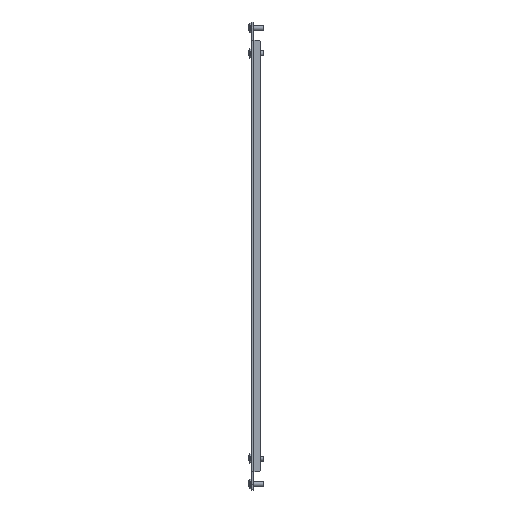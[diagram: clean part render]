
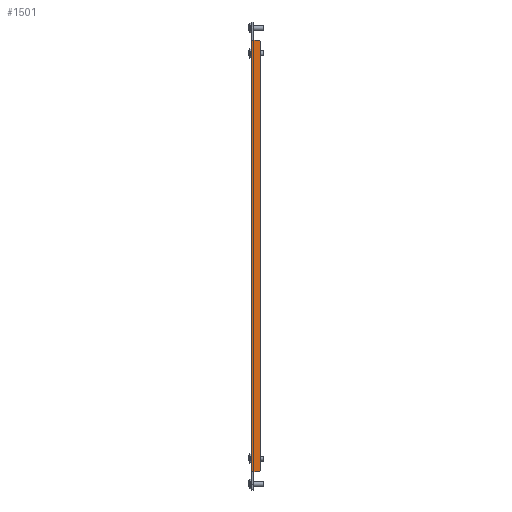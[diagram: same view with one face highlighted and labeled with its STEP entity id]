
A CAD part, left-side view. The second image highlights one B-rep face of the part: STEP entity #1501.
In plain terms, the highlighted planar face has unit normal (-1, 0, 0) as drawn and (1, 0, 0) by its records, which use the part's own axes.
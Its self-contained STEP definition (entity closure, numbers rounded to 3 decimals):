
#36 = VECTOR ( 'NONE', #2022, 1000. ) ;
#44 = DIRECTION ( 'NONE',  ( 0., 0., 1. ) ) ;
#59 = CARTESIAN_POINT ( 'NONE',  ( 634., 212., -9. ) ) ;
#114 = ORIENTED_EDGE ( 'NONE', *, *, #2680, .T. ) ;
#135 = VECTOR ( 'NONE', #1119, 1000. ) ;
#167 = EDGE_CURVE ( 'NONE', #1270, #2225, #482, .T. ) ;
#224 = ORIENTED_EDGE ( 'NONE', *, *, #2139, .T. ) ;
#330 = CARTESIAN_POINT ( 'NONE',  ( 634., -213., 0. ) ) ;
#363 = VERTEX_POINT ( 'NONE', #2380 ) ;
#365 = DIRECTION ( 'NONE',  ( 0., 0., 1. ) ) ;
#391 = CARTESIAN_POINT ( 'NONE',  ( 634., 213., -8. ) ) ;
#398 = CARTESIAN_POINT ( 'NONE',  ( 634., 213., -8. ) ) ;
#407 = LINE ( 'NONE', #1907, #2883 ) ;
#469 = CARTESIAN_POINT ( 'NONE',  ( 634., 0., 0. ) ) ;
#482 = LINE ( 'NONE', #469, #36 ) ;
#553 = VERTEX_POINT ( 'NONE', #1658 ) ;
#604 = FACE_OUTER_BOUND ( 'NONE', #965, .T. ) ;
#621 = LINE ( 'NONE', #2619, #135 ) ;
#631 = ORIENTED_EDGE ( 'NONE', *, *, #1435, .F. ) ;
#632 = EDGE_CURVE ( 'NONE', #2627, #1405, #407, .T. ) ;
#646 = DIRECTION ( 'NONE',  ( 0., 1., 0. ) ) ;
#834 = VECTOR ( 'NONE', #1048, 1000. ) ;
#880 = VECTOR ( 'NONE', #3263, 1000. ) ;
#927 = EDGE_CURVE ( 'NONE', #363, #553, #3091, .T. ) ;
#965 = EDGE_LOOP ( 'NONE', ( #1160, #224, #114, #2655, #2123, #631, #1127, #3075 ) ) ;
#1048 = DIRECTION ( 'NONE',  ( 0., 0., 1. ) ) ;
#1102 = CARTESIAN_POINT ( 'NONE',  ( 634., 0., 0. ) ) ;
#1119 = DIRECTION ( 'NONE',  ( 0., 0., 1. ) ) ;
#1127 = ORIENTED_EDGE ( 'NONE', *, *, #927, .T. ) ;
#1160 = ORIENTED_EDGE ( 'NONE', *, *, #632, .T. ) ;
#1270 = VERTEX_POINT ( 'NONE', #2289 ) ;
#1319 = CARTESIAN_POINT ( 'NONE',  ( 634., 213., 0. ) ) ;
#1321 = DIRECTION ( 'NONE',  ( -1., 0., 0. ) ) ;
#1372 = CARTESIAN_POINT ( 'NONE',  ( 634., -212., -9. ) ) ;
#1405 = VERTEX_POINT ( 'NONE', #59 ) ;
#1435 = EDGE_CURVE ( 'NONE', #363, #2225, #621, .T. ) ;
#1462 = EDGE_CURVE ( 'NONE', #2554, #1270, #1634, .T. ) ;
#1501 = ADVANCED_FACE ( 'NONE', ( #604 ), #2587, .F. ) ;
#1634 = LINE ( 'NONE', #2399, #2805 ) ;
#1658 = CARTESIAN_POINT ( 'NONE',  ( 634., -213., -8. ) ) ;
#1679 = VECTOR ( 'NONE', #2880, 1000. ) ;
#1772 = VECTOR ( 'NONE', #2561, 1000. ) ;
#1849 = CARTESIAN_POINT ( 'NONE',  ( 634., -212., -9. ) ) ;
#1907 = CARTESIAN_POINT ( 'NONE',  ( 634., 0., -9. ) ) ;
#2022 = DIRECTION ( 'NONE',  ( 0., -1., 0. ) ) ;
#2105 = LINE ( 'NONE', #1849, #1679 ) ;
#2123 = ORIENTED_EDGE ( 'NONE', *, *, #167, .T. ) ;
#2139 = EDGE_CURVE ( 'NONE', #1405, #2378, #2664, .T. ) ;
#2225 = VERTEX_POINT ( 'NONE', #330 ) ;
#2279 = EDGE_CURVE ( 'NONE', #553, #2627, #2105, .T. ) ;
#2289 = CARTESIAN_POINT ( 'NONE',  ( 634., 213., 0. ) ) ;
#2334 = LINE ( 'NONE', #1319, #834 ) ;
#2378 = VERTEX_POINT ( 'NONE', #398 ) ;
#2380 = CARTESIAN_POINT ( 'NONE',  ( 634., -213., -2.1 ) ) ;
#2399 = CARTESIAN_POINT ( 'NONE',  ( 634., 213., -2.1 ) ) ;
#2554 = VERTEX_POINT ( 'NONE', #2736 ) ;
#2561 = DIRECTION ( 'NONE',  ( 0., 0., -1. ) ) ;
#2587 = PLANE ( 'NONE',  #2750 ) ;
#2619 = CARTESIAN_POINT ( 'NONE',  ( 634., -213., 0. ) ) ;
#2627 = VERTEX_POINT ( 'NONE', #1372 ) ;
#2655 = ORIENTED_EDGE ( 'NONE', *, *, #1462, .T. ) ;
#2664 = LINE ( 'NONE', #391, #880 ) ;
#2680 = EDGE_CURVE ( 'NONE', #2378, #2554, #2334, .T. ) ;
#2736 = CARTESIAN_POINT ( 'NONE',  ( 634., 213., -2.1 ) ) ;
#2750 = AXIS2_PLACEMENT_3D ( 'NONE', #1102, #1321, #44 ) ;
#2805 = VECTOR ( 'NONE', #365, 1000. ) ;
#2880 = DIRECTION ( 'NONE',  ( 0., 0.707, -0.707 ) ) ;
#2883 = VECTOR ( 'NONE', #646, 1000. ) ;
#3075 = ORIENTED_EDGE ( 'NONE', *, *, #2279, .T. ) ;
#3077 = CARTESIAN_POINT ( 'NONE',  ( 634., -213., 0. ) ) ;
#3091 = LINE ( 'NONE', #3077, #1772 ) ;
#3263 = DIRECTION ( 'NONE',  ( 0., 0.707, 0.707 ) ) ;
